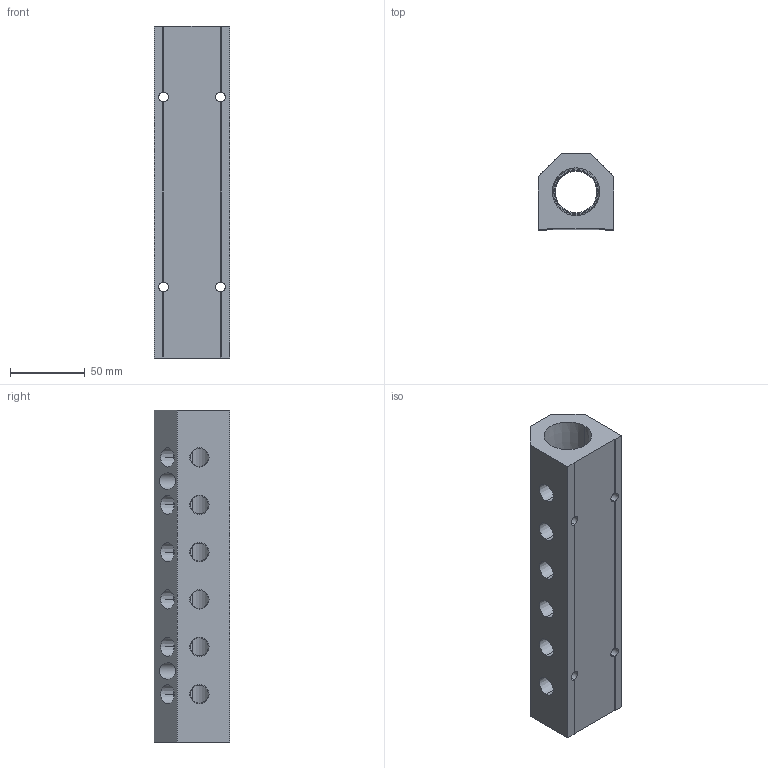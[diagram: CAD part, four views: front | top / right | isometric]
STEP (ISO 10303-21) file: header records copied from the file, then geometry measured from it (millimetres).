
FILE_DESCRIPTION (( 'STEP AP214' ), '1' );
FILE_NAME ('ALM6AB-N4N16-222B.STEP', '2023-11-02T06:35:30', ( '' ), ( '' ), 'SwSTEP 2.0', 'SolidWorks 2020', '' );
FILE_SCHEMA (( 'AUTOMOTIVE_DESIGN' ));
Length unit declared in the file: millimetre
Products named in the file (1): ALM6AB-N4N16-222B
Bounding box: 50.8 x 50.8 x 222 mm (x, y, z)
Volume: 346656.1 mm3; surface area: 70720.7 mm2
Topology: 1 solids, 1 shells, 327 faces, 875 edges, 578 vertices
Faces by surface type: plane 214, bspline 59, cone 32, cylinder 22
Entity records: 17752 total; most frequent: CARTESIAN_POINT 6976, ORIENTED_EDGE 1750, DIRECTION 1311, EDGE_CURVE 875, LINE 637, VECTOR 637, VERTEX_POINT 578, EDGE_LOOP 389
